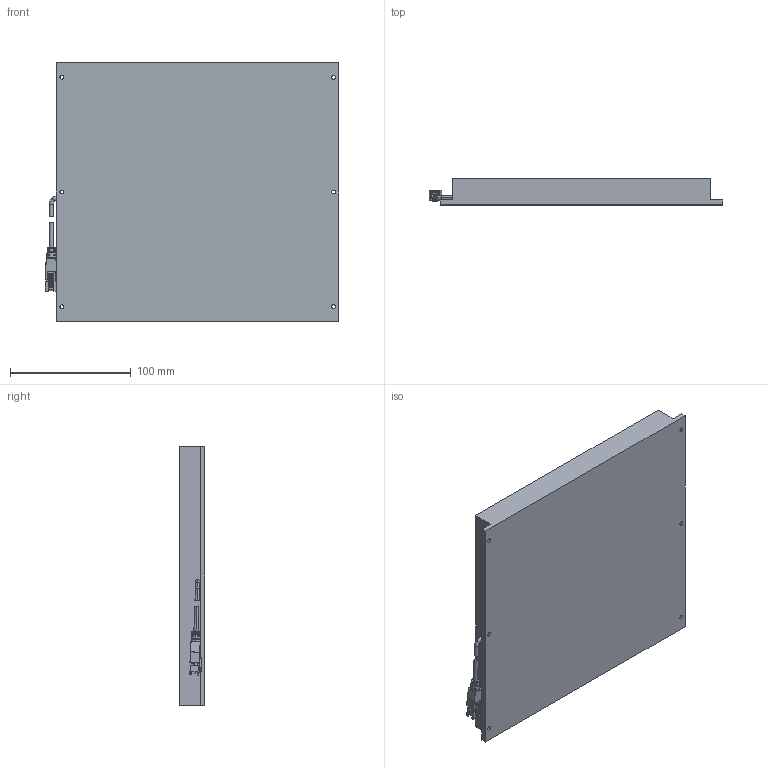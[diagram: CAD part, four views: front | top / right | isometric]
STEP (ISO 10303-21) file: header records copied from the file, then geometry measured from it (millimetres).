
FILE_DESCRIPTION (( 'STEP AP214' ), '1' );
FILE_NAME ('CST-PHFS200200-¼òÒ×3DÍ¼.STEP', '2021-12-28T05:44:44', ( '' ), ( '' ), 'SwSTEP 2.0', 'SolidWorks 2018', '' );
FILE_SCHEMA (( 'AUTOMOTIVE_DESIGN' ));
Length unit declared in the file: millimetre
Products named in the file (1): CST-PHFS200200-潠眢3D芞
Bounding box: 243.41 x 21.5 x 214 mm (x, y, z)
Volume: 963980 mm3; surface area: 202165.6 mm2
Topology: 3 solids, 4 shells, 263 faces, 665 edges, 417 vertices
Faces by surface type: plane 149, cylinder 84, torus 12, bspline 8, sphere 8, cone 2
Entity records: 11239 total; most frequent: CARTESIAN_POINT 1994, DIRECTION 1331, ORIENTED_EDGE 1322, EDGE_CURVE 661, AXIS2_PLACEMENT_3D 450, VECTOR 431, LINE 431, VERTEX_POINT 417
